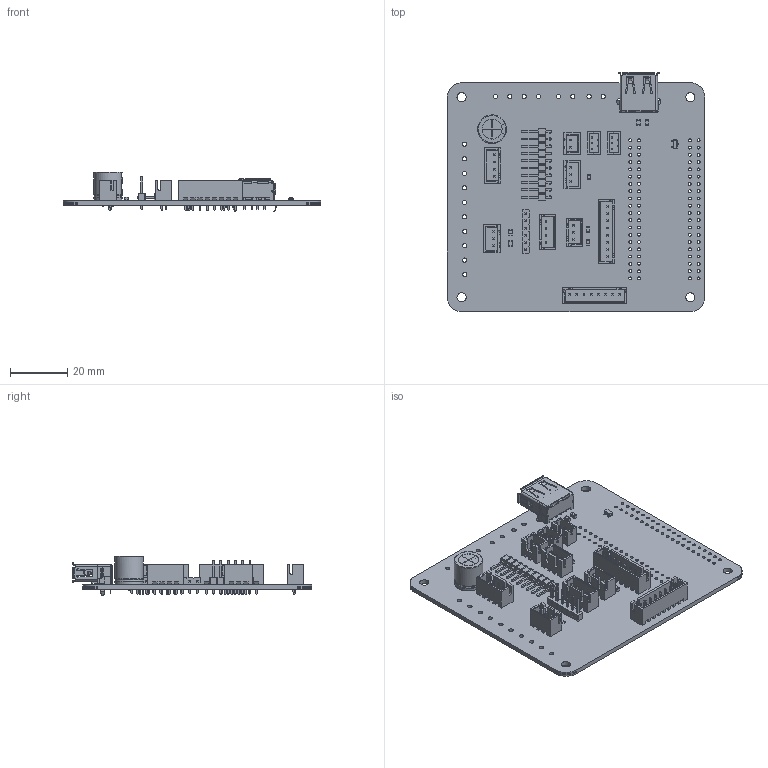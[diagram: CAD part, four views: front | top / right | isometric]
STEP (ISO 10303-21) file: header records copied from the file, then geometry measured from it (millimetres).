
FILE_DESCRIPTION(('KiCad electronic assembly'),'2;1');
FILE_NAME('mirte-master.step','2024-02-28T10:57:04',('Pcbnew'),('Kicad') ,'Open CASCADE STEP processor 7.7','KiCad to STEP converter','Unknown' );
FILE_SCHEMA(('AUTOMOTIVE_DESIGN { 1 0 10303 214 1 1 1 1 }'));
Length unit declared in the file: millimetre
Products named in the file (26): mirte-master 1; PinHeader_1x06_P2.54mm_Vertical; SOLID; JST_XH_B2B-XH-A_1x02_P2.50mm_Vertical; C_0805_2012Metric; CP_Radial_D10.0mm_P3.50mm; JST_XH_B4B-XH-A_1x04_P2.50mm_Vertical; JST_XH_B3B-XH-A_1x03_P2.50mm_Vertical; JST_XH_B8B-XH-A_1x08_P2.50mm_Vertical; R_0805_2012Metric; PinHeader_1x10_P2.54mm_Horizontal; USB-A-TH_4P-L14.5-W14.0-H7.6-S2.71; COMPOUND; JST_PH_B3B-PH-K_1x03_P2.00mm_Vertical; SOT-23; mirte-master PCB
Assembly tree (35 placements, depth 3):
  mirte-master 1
    PinHeader_1x06_P2.54mm_Vertical
      SOLID
    JST_XH_B2B-XH-A_1x02_P2.50mm_Vertical
      SOLID
    C_0805_2012Metric  x6
      SOLID
    CP_Radial_D10.0mm_P3.50mm
      SOLID
    JST_XH_B4B-XH-A_1x04_P2.50mm_Vertical  x2
      SOLID
    JST_XH_B3B-XH-A_1x03_P2.50mm_Vertical  x3
      SOLID
    JST_XH_B8B-XH-A_1x08_P2.50mm_Vertical  x2
      SOLID
    R_0805_2012Metric
      SOLID
    PinHeader_1x10_P2.54mm_Horizontal
      SOLID
    USB-A-TH_4P-L14.5-W14.0-H7.6-S2.71
      COMPOUND
    JST_PH_B3B-PH-K_1x03_P2.00mm_Vertical  x2
      SOLID
    SOT-23
      SOLID
    mirte-master PCB
Bounding box: 90.05 x 83.7 x 13.87 mm (x, y, z)
Volume: 15318.4 mm3; surface area: 24789.2 mm2
Topology: 24 solids, 25 shells, 3238 faces, 8544 edges, 5496 vertices
Faces by surface type: plane 2542, cylinder 530, bspline 156, revolution 4, sphere 4, torus 2
Full cylindrical faces by diameter (mm): 0.5 x2, 0.75 x6, 0.95 x37, 1 x100, 1.5 x18, 2.3 x2, 3.2 x4
Entity records: 180119 total; most frequent: CARTESIAN_POINT 40551, DIRECTION 22310, LINE 15901, VECTOR 15901, ORIENTED_EDGE 12540, PCURVE 12540, DEFINITIONAL_REPRESENTATION 12540, EDGE_CURVE 6270
